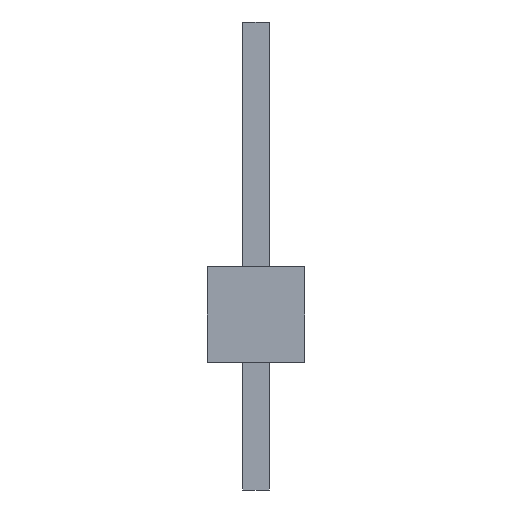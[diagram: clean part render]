
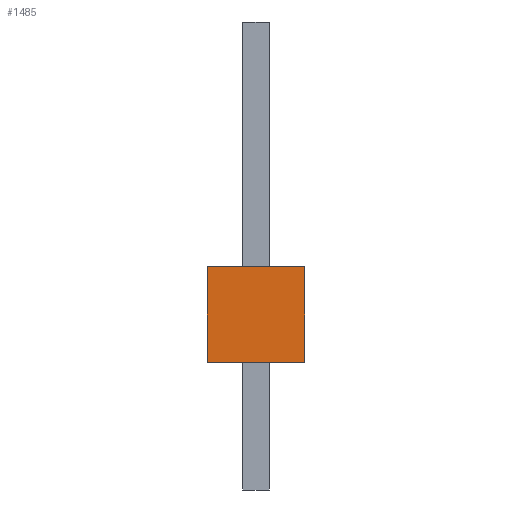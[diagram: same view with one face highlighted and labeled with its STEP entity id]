
A CAD part, left-side view. The second image highlights one B-rep face of the part: STEP entity #1485.
In plain terms, the highlighted planar face has unit normal (-1, 0, 0).
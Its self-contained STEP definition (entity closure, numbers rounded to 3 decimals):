
#158=DIRECTION('',(0.,0.,-1.));
#159=VECTOR('',#158,2.286);
#160=CARTESIAN_POINT('',(-4.877,1.168,0.));
#161=LINE('',#160,#159);
#266=DIRECTION('',(0.,-1.,0.));
#267=VECTOR('',#266,2.337);
#268=CARTESIAN_POINT('',(-4.877,1.168,-2.286));
#269=LINE('',#268,#267);
#346=DIRECTION('',(0.,-1.,0.));
#347=VECTOR('',#346,2.337);
#348=CARTESIAN_POINT('',(-4.877,1.168,0.));
#349=LINE('',#348,#347);
#482=DIRECTION('',(0.,0.,-1.));
#483=VECTOR('',#482,2.286);
#484=CARTESIAN_POINT('',(-4.877,-1.168,0.));
#485=LINE('',#484,#483);
#974=CARTESIAN_POINT('',(-4.877,1.168,0.));
#975=CARTESIAN_POINT('',(-4.877,1.168,-2.286));
#976=VERTEX_POINT('',#974);
#977=VERTEX_POINT('',#975);
#982=CARTESIAN_POINT('',(-4.877,-1.168,0.));
#983=CARTESIAN_POINT('',(-4.877,-1.168,-2.286));
#984=VERTEX_POINT('',#982);
#985=VERTEX_POINT('',#983);
#1472=CARTESIAN_POINT('',(-4.877,1.168,0.));
#1473=DIRECTION('',(-1.,0.,0.));
#1474=DIRECTION('',(0.,0.,-1.));
#1475=AXIS2_PLACEMENT_3D('',#1472,#1473,#1474);
#1476=PLANE('',#1475);
#1477=ORIENTED_EDGE('',*,*,#1271,.F.);
#1479=ORIENTED_EDGE('',*,*,#1478,.T.);
#1481=ORIENTED_EDGE('',*,*,#1480,.T.);
#1482=ORIENTED_EDGE('',*,*,#1372,.F.);
#1483=EDGE_LOOP('',(#1477,#1479,#1481,#1482));
#1484=FACE_OUTER_BOUND('',#1483,.F.);
#1271=EDGE_CURVE('',#976,#977,#161,.T.);
#1372=EDGE_CURVE('',#977,#985,#269,.T.);
#1478=EDGE_CURVE('',#976,#984,#349,.T.);
#1480=EDGE_CURVE('',#984,#985,#485,.T.);
#1485=ADVANCED_FACE('',(#1484),#1476,.T.);
